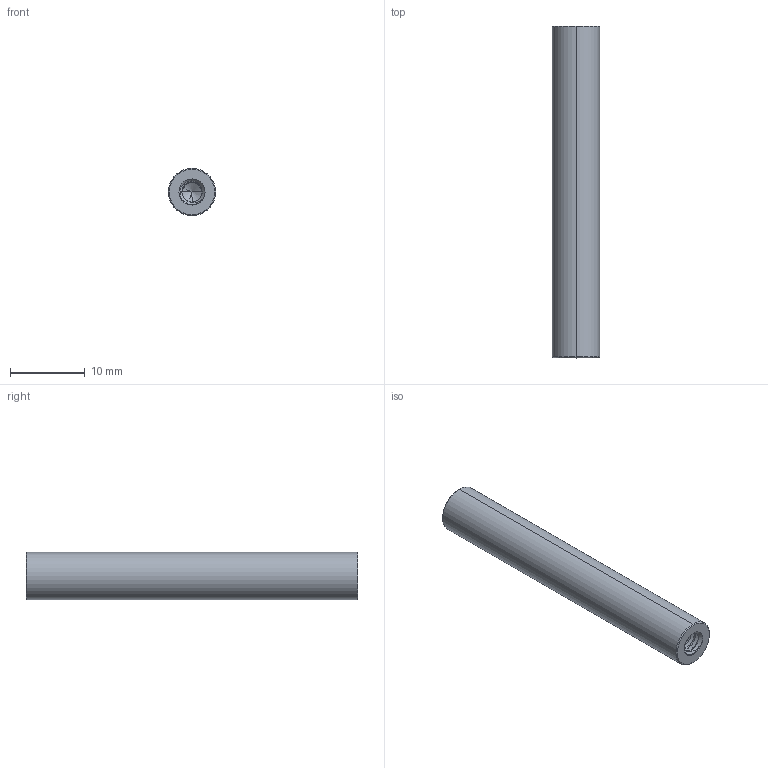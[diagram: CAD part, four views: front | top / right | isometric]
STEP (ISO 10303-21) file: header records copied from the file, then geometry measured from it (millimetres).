
FILE_DESCRIPTION (( 'STEP AP203' ), '1' );
FILE_NAME ('633144.STEP', '2017-06-28T19:52:13', ( '' ), ( '' ), 'SwSTEP 2.0', 'SolidWorks 2016', '' );
FILE_SCHEMA (( 'CONFIG_CONTROL_DESIGN' ));
Length unit declared in the file: inch
Products named in the file (1): 633144
Bounding box: 6.34 x 44.45 x 6.34 mm (x, y, z)
Volume: 1276.5 mm3; surface area: 1192.6 mm2
Topology: 1 solids, 1 shells, 112 faces, 319 edges, 205 vertices
Faces by surface type: cylinder 87, cone 19, bspline 4, plane 2
Entity records: 6946 total; most frequent: CARTESIAN_POINT 4458, ORIENTED_EDGE 626, DIRECTION 379, EDGE_CURVE 313, VERTEX_POINT 205, AXIS2_PLACEMENT_3D 139, EDGE_LOOP 114, ADVANCED_FACE 112
